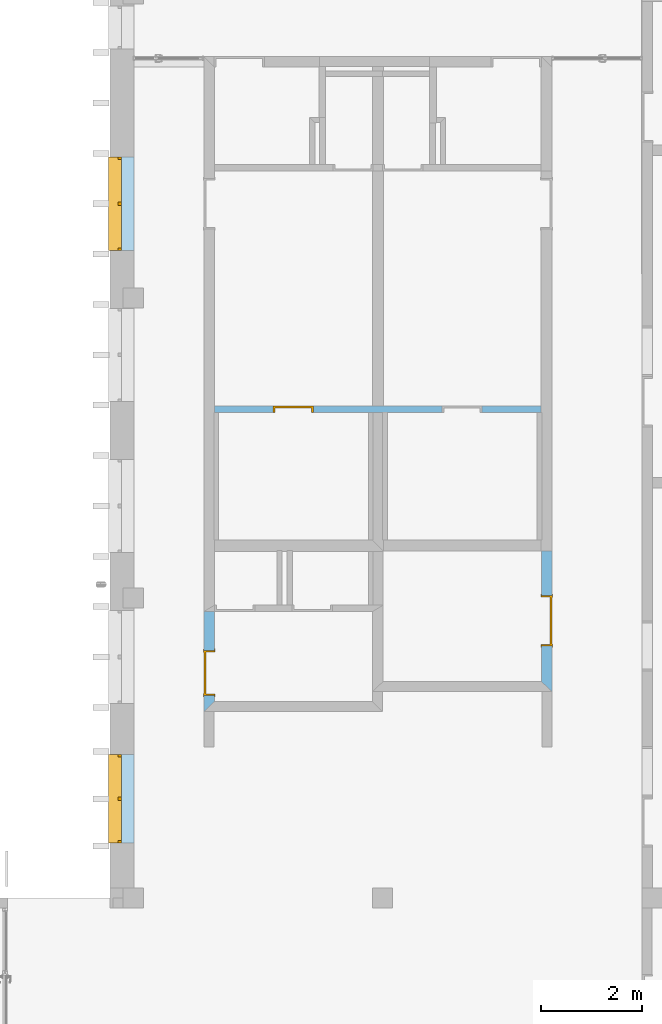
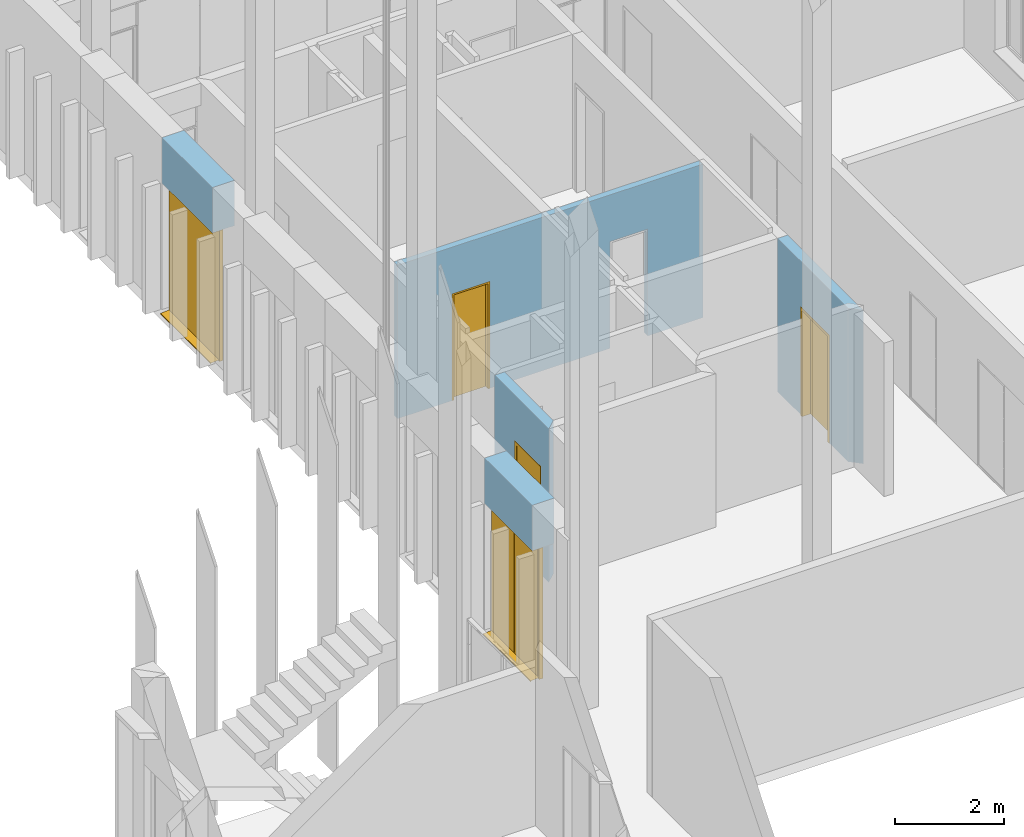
# One storey, part 39 of 89: 3 doors, 2 windows, 6 openings, plus 5 elements that do not belong to this part.
"""IFC2X3 building model written with IfcOpenShell, lengths in millimetres."""

from ifc_helpers import new_model, entity, si_unit, converted_unit, derived_unit, money_unit, direction, frame, origin_with_axes, origin_2d_with_axis, place, context, subcontext, project, spatial, polyline, rectangle, outline, extrude, open_shell, faceted_brep, surface_model, material, layer, layer_set, layer_usage, type_object, element, fill, save


model = new_model("IFC2X3")

# Units and contexts
model_context = context("Model", 3, precision=0.01, world=origin_with_axes(), true_north=direction((0.0, 1.0)))
body_context = subcontext(model_context, "Body", "Model", "MODEL_VIEW")
ifc_project = project(units=[si_unit("LENGTHUNIT", "METRE", prefix="MILLI"), si_unit("AREAUNIT", "SQUARE_METRE"), si_unit("VOLUMEUNIT", "CUBIC_METRE"), converted_unit("PLANEANGLEUNIT", "DEGREE", entity("IfcPlaneAngleMeasure", 0.0174532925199), si_unit("PLANEANGLEUNIT", "RADIAN"), dimensions=[0, 0, 0, 0, 0, 0, 0]), si_unit("SOLIDANGLEUNIT", "STERADIAN"), money_unit("EUR"), converted_unit("TIMEUNIT", "Year", entity("IfcTimeMeasure", 31556926.0), si_unit("TIMEUNIT", "SECOND"), dimensions=[0, 0, 1, 0, 0, 0, 0]), si_unit("MASSUNIT", "GRAM", prefix="KILO"), si_unit("THERMODYNAMICTEMPERATUREUNIT", "DEGREE_CELSIUS"), si_unit("LUMINOUSINTENSITYUNIT", "LUMEN"), si_unit("ENERGYUNIT", "JOULE", prefix="MEGA"), derived_unit("THERMALCONDUCTANCEUNIT", [(si_unit("POWERUNIT", "WATT"), 1), (si_unit("LENGTHUNIT", "METRE"), -1), (si_unit("THERMODYNAMICTEMPERATUREUNIT", "KELVIN"), -1)]), derived_unit("SPECIFICHEATCAPACITYUNIT", [(si_unit("ENERGYUNIT", "JOULE"), 1), (si_unit("MASSUNIT", "GRAM", prefix="KILO"), -1), (si_unit("THERMODYNAMICTEMPERATUREUNIT", "KELVIN"), -1)]), derived_unit("MASSDENSITYUNIT", [(si_unit("MASSUNIT", "GRAM", prefix="KILO"), 1), (si_unit("VOLUMEUNIT", "CUBIC_METRE"), -1)])], contexts=[model_context])

# Site, building, storey
site_placement = place(None, origin_with_axes())
site = spatial("IfcSite", under=ifc_project, at=site_placement, Name="Puškini 31, Narva", CompositionType="ELEMENT")
building_placement = place(site_placement, origin_with_axes())
building = spatial("IfcBuilding", under=site, at=building_placement, Name="Narva Riigigümnaasium", CompositionType="ELEMENT")
storey_placement = place(building_placement, frame((0.0, 0.0, -3300.0), z_axis=(0.0, 0.0, 1.0), x_axis=(1.0, 0.0, 0.0)))
storey = spatial("IfcBuildingStorey", under=building, at=storey_placement, Name="1.korrus -3.3", CompositionType="ELEMENT", Elevation=-3300.0)

# Wall, opening, window
ifc_material_1 = material(Name="fassaadiplaat")
ifc_layer_1 = layer(ifc_material_1, 8.0, ventilated="UNKNOWN")
ifc_material_2 = material(Name="Salto-roovitus")
ifc_layer_2 = layer(ifc_material_2, 50.0, ventilated="UNKNOWN")
ifc_material_3 = material(Name="Salto-PIR soojustus")
ifc_layer_3 = layer(ifc_material_3, 50.0, ventilated="UNKNOWN")
ifc_layer_4 = layer(ifc_material_3, 150.0, ventilated="UNKNOWN")
ifc_material_4 = material(Name="Betoon element")
ifc_layer_5 = layer(ifc_material_4, 200.0, ventilated="UNKNOWN")
ifc_material_5 = material(Name="Salto-siseviimistlus-seinad")
ifc_layer_6 = layer(ifc_material_5, 10.0, ventilated="UNKNOWN")
ifc_layer_set_1 = layer_set([ifc_layer_1, ifc_layer_2, ifc_layer_3, ifc_layer_4, ifc_layer_5, ifc_layer_6], Name="G-VS-01")
ifc_layer_usage_1 = layer_usage(ifc_layer_set_1, "AXIS2", "POSITIVE", -458.0)
wall_type_1 = type_object("IfcWallType", Name="G-VS-01 468", PredefinedType="NOTDEFINED")
wall_1_placement = place(storey_placement, frame((37400.0000002, 238709.212578, 0.0), z_axis=(0.0, 0.0, 1.0), x_axis=(0.0, -1.0, 0.0)))
wall_1 = element("IfcWallStandardCase", 1, at=wall_1_placement, inside=storey, type_object=wall_type_1, material=ifc_layer_usage_1, Name="Välissein", context=body_context, shape_type="SweptSolid", body=[
    extrude(outline(polyline([(0.0, -458.0), (1850.0, -458.0), (1850.0, 10.0), (0.0, 10.0), (0.0, -458.0)])), origin_with_axes(), (0.0, 0.0, 1.0), 3959.99999955),
])
opening_1_placement = place(wall_1_placement, frame((925.0, 0.0, 0.0), z_axis=(0.0, 0.0, 1.0), x_axis=(1.0, 0.0, 0.0)))
opening_1 = element("IfcOpeningElement", 2, at=opening_1_placement, cuts=wall_1, Name="G-A-30", context=body_context, shape_type="SweptSolid", body=[
    extrude(rectangle(XDim=1850.0, YDim=2940.0, at=origin_2d_with_axis()), frame((0.0, -308.0, 1470.0), z_axis=(0.0, 1.0, 0.0), x_axis=(-1.0, 0.0, 0.0)), (0.0, 0.0, 1.0), 786.0),
    extrude(rectangle(XDim=1850.0, YDim=2940.0, at=origin_2d_with_axis()), frame((0.0, -308.0, 1470.0), z_axis=(0.0, -1.0, 0.0), x_axis=(-1.0, 0.0, 0.0)), (0.0, 0.0, 1.0), 618.0),
])
window_style_1 = type_object("IfcWindowStyle", Name="Horizontal Multi-Sash Window 23", ConstructionType="NOTDEFINED", OperationType="DOUBLE_PANEL_VERTICAL", ParameterTakesPrecedence=False, Sizeable=False)
window_1_placement = place(opening_1_placement, frame((-925.0, 0.0, 0.0), z_axis=(0.0, 0.0, 1.0), x_axis=(1.0, 0.0, 0.0)))
window_1 = element("IfcWindow", 3, at=window_1_placement, inside=storey, type_object=window_style_1, Name="G-A-30", ObjectType="WINDOW", OverallHeight=2940.0, OverallWidth=1850.0, context=body_context, shape_type="SurfaceModel", body=[
    surface_model("IfcShellBasedSurfaceModel", [(1850.0, -309.0, 50.0), (0.0, -309.0, 50.0), (0.0, -309.0, 40.0), (1850.0, -309.0, 40.0), (0.0, -488.0, 28.0), (1850.0, -488.0, 28.0), (0.0, -488.0, 8.0), (1850.0, -488.0, 8.0), (0.0, -478.0, 18.0), (1850.0, -478.0, 18.0)], [open_shell([[[0, 1, 2, 3]], [[3, 2, 4, 5]], [[5, 4, 6, 7]], [[7, 6, 8, 9]]])]),
    faceted_brep([(1800.0, -308.0, 2890.0), (1850.0, -308.0, 2890.0), (1850.0, -233.0, 2890.0), (1800.0, -233.0, 2890.0), (1800.0, -308.0, 50.0), (1850.0, -308.0, 50.0), (1850.0, -233.0, 50.0), (1800.0, -233.0, 50.0)], [[[0, 1, 2, 3]], [[0, 4, 5, 1]], [[1, 5, 6, 2]], [[3, 2, 6, 7]], [[4, 0, 3, 7]], [[5, 4, 7, 6]]]),
    faceted_brep([(50.0, -308.0, 50.0), (0.0, -308.0, 50.0), (0.0, -233.0, 50.0), (50.0, -233.0, 50.0), (50.0, -308.0, 2890.0), (0.0, -308.0, 2890.0), (0.0, -233.0, 2890.0), (50.0, -233.0, 2890.0)], [[[0, 1, 2, 3]], [[0, 4, 5, 1]], [[1, 5, 6, 2]], [[3, 2, 6, 7]], [[4, 0, 3, 7]], [[5, 4, 7, 6]]]),
    faceted_brep([(50.0, -308.0, 2890.0), (0.0, -308.0, 2890.0), (0.0, -233.0, 2890.0), (50.0, -233.0, 2890.0), (887.5, -308.0, 2890.0), (962.5, -308.0, 2890.0), (1800.0, -308.0, 2890.0), (1850.0, -308.0, 2890.0), (1850.0, -308.0, 2940.0), (0.0, -308.0, 2940.0), (0.0, -233.0, 2940.0), (1850.0, -233.0, 2940.0), (1850.0, -233.0, 2890.0), (1800.0, -233.0, 2890.0), (962.5, -233.0, 2890.0), (887.5, -233.0, 2890.0)], [[[0, 1, 2, 3]], [[0, 4, 5, 6, 7, 8, 9, 1]], [[1, 9, 10, 2]], [[3, 2, 10, 11, 12, 13, 14, 15]], [[4, 0, 3, 15]], [[5, 4, 15, 14]], [[6, 5, 14, 13]], [[7, 6, 13, 12]], [[8, 7, 12, 11]], [[9, 8, 11, 10]]]),
    faceted_brep([(887.5, -308.0, 50.0), (962.5, -308.0, 50.0), (962.5, -233.0, 50.0), (887.5, -233.0, 50.0), (50.0, -308.0, 50.0), (0.0, -308.0, 50.0), (0.0, -308.0, 0.0), (1850.0, -308.0, 0.0), (1850.0, -308.0, 50.0), (1800.0, -308.0, 50.0), (1800.0, -233.0, 50.0), (1850.0, -233.0, 50.0), (1850.0, -233.0, 0.0), (0.0, -233.0, 0.0), (0.0, -233.0, 50.0), (50.0, -233.0, 50.0)], [[[0, 1, 2, 3]], [[0, 4, 5, 6, 7, 8, 9, 1]], [[1, 9, 10, 2]], [[3, 2, 10, 11, 12, 13, 14, 15]], [[4, 0, 3, 15]], [[5, 4, 15, 14]], [[6, 5, 14, 13]], [[7, 6, 13, 12]], [[8, 7, 12, 11]], [[9, 8, 11, 10]]]),
    faceted_brep([(887.5, -308.0, 50.0), (887.5, -308.0, 2890.0), (887.5, -233.0, 2890.0), (887.5, -233.0, 50.0), (962.5, -308.0, 50.0), (962.5, -308.0, 2890.0), (962.5, -233.0, 2890.0), (962.5, -233.0, 50.0)], [[[0, 1, 2, 3]], [[0, 4, 5, 1]], [[1, 5, 6, 2]], [[3, 2, 6, 7]], [[4, 0, 3, 7]], [[5, 4, 7, 6]]]),
    surface_model("IfcShellBasedSurfaceModel", [(1800.0, -313.0, 50.0), (1800.0, -313.0, 2890.0), (962.5, -313.0, 2890.0), (962.5, -313.0, 50.0)], [open_shell([[[0, 1, 2, 3]]])]),
    surface_model("IfcShellBasedSurfaceModel", [(1800.0, -293.0, 50.0), (962.5, -293.0, 50.0), (962.5, -293.0, 2890.0), (1800.0, -293.0, 2890.0)], [open_shell([[[0, 1, 2, 3]]])]),
    surface_model("IfcShellBasedSurfaceModel", [(887.5, -313.0, 50.0), (887.5, -313.0, 2890.0), (50.0, -313.0, 2890.0), (50.0, -313.0, 50.0)], [open_shell([[[0, 1, 2, 3]]])]),
    surface_model("IfcShellBasedSurfaceModel", [(887.5, -293.0, 50.0), (50.0, -293.0, 50.0), (50.0, -293.0, 2890.0), (887.5, -293.0, 2890.0)], [open_shell([[[0, 1, 2, 3]]])]),
])
fill(opening_1, window_1)

wall_2_placement = place(storey_placement, frame((37400.0000002, 226846.000005, 0.0), z_axis=(0.0, 0.0, 1.0), x_axis=(0.0, -1.0, 0.0)))
wall_2 = element("IfcWallStandardCase", 4, at=wall_2_placement, inside=storey, type_object=wall_type_1, material=ifc_layer_usage_1, Name="Välissein", context=body_context, shape_type="SweptSolid", body=[
    extrude(outline(polyline([(0.0, -458.0), (1750.0, -458.0), (1750.0, 10.0), (0.0, 10.0), (0.0, -458.0)])), origin_with_axes(), (0.0, 0.0, 1.0), 3959.99999955),
])
opening_2_placement = place(wall_2_placement, frame((875.0, 0.0, 0.0), z_axis=(0.0, 0.0, 1.0), x_axis=(1.0, 0.0, 0.0)))
opening_2 = element("IfcOpeningElement", 5, at=opening_2_placement, cuts=wall_2, Name="G-A-41", context=body_context, shape_type="SweptSolid", body=[
    extrude(rectangle(XDim=1750.0, YDim=2940.0, at=origin_2d_with_axis()), frame((0.0, -308.0, 1470.0), z_axis=(0.0, -1.0, 0.0), x_axis=(1.0, 0.0, 0.0)), (0.0, 0.0, -1.0), 786.0),
    extrude(rectangle(XDim=1750.0, YDim=2940.0, at=origin_2d_with_axis()), frame((0.0, -308.0, 1470.0), z_axis=(0.0, 1.0, 0.0), x_axis=(1.0, 0.0, 0.0)), (0.0, 0.0, -1.0), 618.0),
])
window_style_2 = type_object("IfcWindowStyle", Name="Horizontal Multi-Sash Window 23", ConstructionType="NOTDEFINED", OperationType="DOUBLE_PANEL_VERTICAL", ParameterTakesPrecedence=False, Sizeable=False)
window_2_placement = place(opening_2_placement, frame((-875.0, 0.0, 0.0), z_axis=(0.0, 0.0, 1.0), x_axis=(1.0, 0.0, 0.0)))
window_2 = element("IfcWindow", 6, at=window_2_placement, inside=storey, type_object=window_style_2, Name="G-A-41", ObjectType="WINDOW", OverallHeight=2940.0, OverallWidth=1750.0, context=body_context, shape_type="SurfaceModel", body=[
    surface_model("IfcShellBasedSurfaceModel", [(0.0, -309.0, 50.0), (0.0, -309.0, 40.0), (1750.0, -309.0, 40.0), (1750.0, -309.0, 50.0), (0.0, -488.0, 28.0), (1750.0, -488.0, 28.0), (0.0, -488.0, 8.0), (1750.0, -488.0, 8.0), (0.0, -478.0, 18.0), (1750.0, -478.0, 18.0)], [open_shell([[[0, 1, 2, 3]], [[1, 4, 5, 2]], [[4, 6, 7, 5]], [[6, 8, 9, 7]]])]),
    faceted_brep([(50.0, -308.0, 2890.0), (50.0, -233.0, 2890.0), (0.0, -233.0, 2890.0), (0.0, -308.0, 2890.0), (50.0, -308.0, 50.0), (50.0, -233.0, 50.0), (0.0, -233.0, 50.0), (0.0, -308.0, 50.0)], [[[0, 1, 2, 3]], [[4, 5, 1, 0]], [[1, 5, 6, 2]], [[3, 2, 6, 7]], [[0, 3, 7, 4]], [[7, 6, 5, 4]]]),
    faceted_brep([(1700.0, -308.0, 50.0), (1700.0, -233.0, 50.0), (1750.0, -233.0, 50.0), (1750.0, -308.0, 50.0), (1700.0, -308.0, 2890.0), (1700.0, -233.0, 2890.0), (1750.0, -233.0, 2890.0), (1750.0, -308.0, 2890.0)], [[[0, 1, 2, 3]], [[4, 5, 1, 0]], [[1, 5, 6, 2]], [[3, 2, 6, 7]], [[0, 3, 7, 4]], [[7, 6, 5, 4]]]),
    faceted_brep([(1700.0, -308.0, 2890.0), (1700.0, -233.0, 2890.0), (1750.0, -233.0, 2890.0), (1750.0, -308.0, 2890.0), (912.5, -308.0, 2890.0), (912.5, -233.0, 2890.0), (837.5, -233.0, 2890.0), (50.0, -233.0, 2890.0), (0.0, -233.0, 2890.0), (0.0, -233.0, 2940.0), (1750.0, -233.0, 2940.0), (1750.0, -308.0, 2940.0), (0.0, -308.0, 2940.0), (0.0, -308.0, 2890.0), (50.0, -308.0, 2890.0), (837.5, -308.0, 2890.0)], [[[0, 1, 2, 3]], [[4, 5, 1, 0]], [[1, 5, 6, 7, 8, 9, 10, 2]], [[3, 2, 10, 11]], [[0, 3, 11, 12, 13, 14, 15, 4]], [[15, 6, 5, 4]], [[14, 7, 6, 15]], [[13, 8, 7, 14]], [[12, 9, 8, 13]], [[11, 10, 9, 12]]]),
    faceted_brep([(912.5, -308.0, 50.0), (912.5, -233.0, 50.0), (837.5, -233.0, 50.0), (837.5, -308.0, 50.0), (1700.0, -308.0, 50.0), (1700.0, -233.0, 50.0), (1750.0, -233.0, 50.0), (1750.0, -233.0, 0.0), (0.0, -233.0, 0.0), (0.0, -233.0, 50.0), (50.0, -233.0, 50.0), (50.0, -308.0, 50.0), (0.0, -308.0, 50.0), (0.0, -308.0, 0.0), (1750.0, -308.0, 0.0), (1750.0, -308.0, 50.0)], [[[0, 1, 2, 3]], [[4, 5, 1, 0]], [[1, 5, 6, 7, 8, 9, 10, 2]], [[3, 2, 10, 11]], [[0, 3, 11, 12, 13, 14, 15, 4]], [[15, 6, 5, 4]], [[14, 7, 6, 15]], [[13, 8, 7, 14]], [[12, 9, 8, 13]], [[11, 10, 9, 12]]]),
    faceted_brep([(912.5, -308.0, 50.0), (912.5, -233.0, 50.0), (912.5, -233.0, 2890.0), (912.5, -308.0, 2890.0), (837.5, -308.0, 50.0), (837.5, -233.0, 50.0), (837.5, -233.0, 2890.0), (837.5, -308.0, 2890.0)], [[[0, 1, 2, 3]], [[4, 5, 1, 0]], [[1, 5, 6, 2]], [[3, 2, 6, 7]], [[0, 3, 7, 4]], [[7, 6, 5, 4]]]),
    surface_model("IfcShellBasedSurfaceModel", [(50.0, -313.0, 50.0), (837.5, -313.0, 50.0), (837.5, -313.0, 2890.0), (50.0, -313.0, 2890.0)], [open_shell([[[0, 1, 2, 3]]])]),
    surface_model("IfcShellBasedSurfaceModel", [(50.0, -293.0, 50.0), (50.0, -293.0, 2890.0), (837.5, -293.0, 2890.0), (837.5, -293.0, 50.0)], [open_shell([[[0, 1, 2, 3]]])]),
    surface_model("IfcShellBasedSurfaceModel", [(912.5, -313.0, 50.0), (1700.0, -313.0, 50.0), (1700.0, -313.0, 2890.0), (912.5, -313.0, 2890.0)], [open_shell([[[0, 1, 2, 3]]])]),
    surface_model("IfcShellBasedSurfaceModel", [(912.5, -293.0, 50.0), (912.5, -293.0, 2890.0), (1700.0, -293.0, 2890.0), (1700.0, -293.0, 50.0)], [open_shell([[[0, 1, 2, 3]]])]),
])
fill(opening_2, window_2)

# Wall, openings, door
ifc_material_6 = material(Name="siseviimistlus-seinad")
ifc_layer_7 = layer(ifc_material_6, 15.0, ventilated="UNKNOWN")
ifc_material_7 = material(Name="kergbetoonplokk")
ifc_layer_8 = layer(ifc_material_7, 100.0, ventilated="UNKNOWN")
ifc_layer_set_2 = layer_set([ifc_layer_7, ifc_layer_8, ifc_layer_7], Name="G-SS-05-03")
ifc_layer_usage_2 = layer_usage(ifc_layer_set_2, "AXIS2", "NEGATIVE", 15.0)
wall_type_2 = type_object("IfcWallType", Name="G-SS-05-03 130", PredefinedType="NOTDEFINED")
wall_3_placement = place(storey_placement, frame((39000.0000003, 233750.000001, 0.0), z_axis=(0.0, 0.0, 1.0), x_axis=(1.0, 0.0, 0.0)))
wall_3 = element("IfcWallStandardCase", 7, at=wall_3_placement, inside=storey, type_object=wall_type_2, material=ifc_layer_usage_2, Name="Sisesein", context=body_context, shape_type="SweptSolid", body=[
    extrude(outline(polyline([(15.0, -115.0), (6494.99998706, -115.0), (6494.99998741, 15.0), (15.0, 15.0), (15.0, -115.0)])), origin_with_axes(), (0.0, 0.0, 1.0), 3445.0),
])
opening_3_placement = place(wall_3_placement, frame((1575.0, 0.0, 0.0), z_axis=(0.0, 0.0, 1.0), x_axis=(1.0, 0.0, 0.0)))
opening_3 = element("IfcOpeningElement", 8, at=opening_3_placement, cuts=wall_3, Name="G-SU-042", context=body_context, shape_type="SweptSolid", body=[
    extrude(rectangle(XDim=799.999999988, YDim=2400.0, at=origin_2d_with_axis()), frame((0.0, 130.0, 1200.0), z_axis=(0.0, 1.0, 0.0), x_axis=(-1.0, 0.0, 0.0)), (0.0, 0.0, -1.0), 390.0),
])
opening_4_placement = place(wall_3_placement, frame((4924.99999989, 0.0, 0.0), z_axis=(0.0, 0.0, 1.0), x_axis=(1.0, 0.0, 0.0)))
element("IfcOpeningElement", 9, at=opening_4_placement, cuts=wall_3, Name="G-SU-049", context=body_context, shape_type="SweptSolid", body=[
    extrude(rectangle(XDim=799.999999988, YDim=2400.0, at=origin_2d_with_axis()), frame((0.0, -130.0, 1200.0), z_axis=(0.0, 1.0, 0.0), x_axis=(1.0, 0.0, 0.0)), (0.0, 0.0, 1.0), 390.0),
])
door_style_1 = type_object("IfcDoorStyle", Name="Door 23", ConstructionType="NOTDEFINED", OperationType="SINGLE_SWING_LEFT", ParameterTakesPrecedence=False, Sizeable=False)
door_1_placement = place(opening_3_placement, frame((-399.999999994, 0.0, 0.0), z_axis=(0.0, 0.0, 1.0), x_axis=(1.0, 0.0, 0.0)))
door_1 = element("IfcDoor", 10, at=door_1_placement, inside=storey, type_object=door_style_1, Name="G-SU-042", ObjectType="DOOR", OverallHeight=2400.0, OverallWidth=800.0, context=body_context, shape_type="Brep", body=[
    faceted_brep([(759.999999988, -25.0, 0.0), (759.999999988, -115.0, 0.0), (759.999999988, -115.0, 2360.0), (759.999999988, -25.0, 2360.0), (771.999999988, -25.0, 0.0), (771.999999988, 15.0, 0.0), (799.999999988, 15.0, 0.0), (799.999999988, -115.0, 0.0), (799.999999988, -115.0, 2360.0), (771.999999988, -25.0, 2360.0), (799.999999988, 15.0, 2360.0), (771.999999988, 15.0, 2360.0)], [[[0, 1, 2, 3]], [[4, 5, 6, 7, 1, 0]], [[1, 7, 8, 2]], [[9, 3, 2, 8, 10, 11]], [[9, 4, 0, 3]], [[11, 5, 4, 9]], [[11, 10, 6, 5]], [[6, 10, 8, 7]]]),
    faceted_brep([(28.0, -25.0, 2360.0), (28.0, 15.0, 2360.0), (0.0, 15.0, 2360.0), (0.0, -115.0, 2360.0), (40.0, -115.0, 2360.0), (40.0, -25.0, 2360.0), (28.0, -25.0, 0.0), (28.0, 15.0, 0.0), (0.0, 15.0, 0.0), (0.0, -115.0, 0.0), (40.0, -115.0, 0.0), (40.0, -25.0, 0.0)], [[[0, 1, 2, 3, 4, 5]], [[0, 6, 7, 1]], [[7, 8, 2, 1]], [[2, 8, 9, 3]], [[3, 9, 10, 4]], [[5, 4, 10, 11]], [[5, 11, 6, 0]], [[6, 11, 10, 9, 8, 7]]]),
    faceted_brep([(771.999999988, 15.0, 2372.0), (28.0, 15.0, 2372.0), (28.0, 15.0, 2360.0), (0.0, 15.0, 2360.0), (0.0, 15.0, 2400.0), (799.999999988, 15.0, 2400.0), (799.999999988, 15.0, 2360.0), (771.999999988, 15.0, 2360.0), (771.999999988, -25.0, 2372.0), (28.0, -25.0, 2372.0), (28.0, -25.0, 2360.0), (40.0, -25.0, 2360.0), (40.0, -115.0, 2360.0), (0.0, -115.0, 2360.0), (0.0, -115.0, 2400.0), (799.999999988, -115.0, 2400.0), (799.999999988, -115.0, 2360.0), (771.999999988, -25.0, 2360.0), (759.999999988, -115.0, 2360.0), (759.999999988, -25.0, 2360.0)], [[[0, 1, 2, 3, 4, 5, 6, 7]], [[0, 8, 9, 1]], [[1, 9, 10, 2]], [[10, 11, 12, 13, 3, 2]], [[4, 3, 13, 14]], [[5, 4, 14, 15]], [[6, 5, 15, 16]], [[17, 7, 6, 16, 18, 19]], [[7, 17, 8, 0]], [[10, 9, 8, 17, 19, 11]], [[19, 18, 12, 11]], [[12, 18, 16, 15, 14, 13]]]),
    faceted_brep([(28.0, 15.0, 0.0), (771.999999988, 15.0, 0.0), (771.999999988, -25.0, 0.0), (28.0, -25.0, 0.0), (28.0, 15.0, 2372.0), (771.999999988, 15.0, 2372.0), (771.999999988, -25.0, 2372.0), (28.0, -25.0, 2372.0)], [[[0, 1, 2, 3]], [[0, 4, 5, 1]], [[1, 5, 6, 2]], [[3, 2, 6, 7]], [[4, 0, 3, 7]], [[5, 4, 7, 6]]]),
])
fill(opening_3, door_1)

# Wall, opening, door
ifc_layer_9 = layer(ifc_material_6, 10.0, ventilated="UNKNOWN")
ifc_material_8 = material(Name="õõnes betoonplokk")
ifc_layer_10 = layer(ifc_material_8, 190.0, ventilated="UNKNOWN")
ifc_layer_set_3 = layer_set([ifc_layer_9, ifc_layer_10, ifc_layer_9], Name="G-SS-02")
ifc_layer_usage_3 = layer_usage(ifc_layer_set_3, "AXIS2", "NEGATIVE", 10.0)
wall_type_3 = type_object("IfcWallType", Name="G-SS-02 210", PredefinedType="NOTDEFINED")
wall_4_placement = place(storey_placement, frame((38810.0000003, 227700.0, 0.0), z_axis=(0.0, 0.0, 1.0), x_axis=(0.0, 1.0, 0.0)))
wall_4 = element("IfcWallStandardCase", 11, at=wall_4_placement, inside=storey, type_object=wall_type_3, material=ifc_layer_usage_3, Name="Sisesein", context=body_context, shape_type="SweptSolid", body=[
    extrude(outline(polyline([(200.0, -200.0), (1990.00001846, -200.0), (1990.00001846, 10.0), (0.0, 10.0), (200.0, -200.0)])), origin_with_axes(), (0.0, 0.0, 1.0), 3445.0),
])
opening_5_placement = place(wall_4_placement, frame((769.676408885, 0.0, 0.0), z_axis=(0.0, 0.0, 1.0), x_axis=(1.0, 0.0, 0.0)))
opening_5 = element("IfcOpeningElement", 12, at=opening_5_placement, cuts=wall_4, Name="G-SU-043", context=body_context, shape_type="SweptSolid", body=[
    extrude(rectangle(XDim=900.0, YDim=2400.0, at=origin_2d_with_axis()), frame((0.0, -210.0, 1200.0), z_axis=(0.0, 1.0, 0.0), x_axis=(-1.0, 0.0, 0.0)), (0.0, 0.0, 1.0), 630.0),
    extrude(rectangle(XDim=960.0, YDim=2430.0, at=origin_2d_with_axis()), frame((0.0, -200.0, 1215.0), z_axis=(0.0, 1.0, 0.0), x_axis=(-1.0, 0.0, 0.0)), (0.0, 0.0, -1.0), 210.0),
    extrude(rectangle(XDim=956.0, YDim=2428.0, at=origin_2d_with_axis()), frame((0.0, 10.0, 1214.0), z_axis=(0.0, -1.0, 0.0), x_axis=(-1.0, 0.0, 0.0)), (0.0, 0.0, -1.0), 210.0),
])
door_style_2 = type_object("IfcDoorStyle", Name="Door 23", ConstructionType="NOTDEFINED", OperationType="SINGLE_SWING_RIGHT", ParameterTakesPrecedence=False, Sizeable=False)
door_2_placement = place(opening_5_placement, frame((450.0, 0.0, 0.0), z_axis=(0.0, 0.0, 1.0), x_axis=(-1.0, 0.0, 0.0)))
door_2 = element("IfcDoor", 13, at=door_2_placement, inside=storey, type_object=door_style_2, Name="G-SU-043", ObjectType="DOOR", OverallHeight=2400.0, OverallWidth=900.0, context=body_context, shape_type="Brep", body=[
    faceted_brep([(0.0, 30.0, 0.0), (0.0, 200.0, 0.0), (30.0, 200.0, 0.0), (30.0, 30.0, 0.0), (0.0, 30.0, 2400.0), (0.0, 200.0, 2400.0), (30.0, 200.0, 2370.0), (30.0, 30.0, 2370.0)], [[[0, 1, 2, 3]], [[4, 5, 1, 0]], [[1, 5, 6, 2]], [[3, 2, 6, 7]], [[0, 3, 7, 4]], [[7, 6, 5, 4]]]),
    faceted_brep([(900.0, 30.0, 2400.0), (900.0, 200.0, 2400.0), (870.0, 200.0, 2370.0), (870.0, 30.0, 2370.0), (900.0, 30.0, 0.0), (900.0, 200.0, 0.0), (870.0, 200.0, 0.0), (870.0, 30.0, 0.0)], [[[0, 1, 2, 3]], [[4, 5, 1, 0]], [[1, 5, 6, 2]], [[3, 2, 6, 7]], [[0, 3, 7, 4]], [[7, 6, 5, 4]]]),
    faceted_brep([(30.0, 30.0, 2370.0), (30.0, 200.0, 2370.0), (870.0, 200.0, 2370.0), (870.0, 30.0, 2370.0), (0.0, 30.0, 2400.0), (0.0, 200.0, 2400.0), (900.0, 200.0, 2400.0), (900.0, 30.0, 2400.0)], [[[0, 1, 2, 3]], [[4, 5, 1, 0]], [[1, 5, 6, 2]], [[3, 2, 6, 7]], [[0, 3, 7, 4]], [[7, 6, 5, 4]]]),
    faceted_brep([(-30.0, 210.0, 0.0), (30.0, 210.0, 0.0), (30.0, 200.0, 0.0), (-30.0, 200.0, 0.0), (-30.0, 210.0, 2430.0), (30.0, 210.0, 2370.0), (30.0, 200.0, 2370.0), (-30.0, 200.0, 2430.0)], [[[0, 1, 2, 3]], [[0, 4, 5, 1]], [[1, 5, 6, 2]], [[3, 2, 6, 7]], [[4, 0, 3, 7]], [[5, 4, 7, 6]]]),
    faceted_brep([(930.0, 210.0, 2430.0), (870.0, 210.0, 2370.0), (870.0, 200.0, 2370.0), (930.0, 200.0, 2430.0), (930.0, 210.0, 0.0), (870.0, 210.0, 0.0), (870.0, 200.0, 0.0), (930.0, 200.0, 0.0)], [[[0, 1, 2, 3]], [[0, 4, 5, 1]], [[1, 5, 6, 2]], [[3, 2, 6, 7]], [[4, 0, 3, 7]], [[5, 4, 7, 6]]]),
    faceted_brep([(-30.0, 210.0, 2430.0), (30.0, 210.0, 2370.0), (30.0, 200.0, 2370.0), (-30.0, 200.0, 2430.0), (930.0, 210.0, 2430.0), (870.0, 210.0, 2370.0), (870.0, 200.0, 2370.0), (930.0, 200.0, 2430.0)], [[[0, 1, 2, 3]], [[0, 4, 5, 1]], [[1, 5, 6, 2]], [[3, 2, 6, 7]], [[4, 0, 3, 7]], [[5, 4, 7, 6]]]),
    faceted_brep([(-28.0, -20.0, 0.0), (-28.0, -10.0, 0.0), (42.0, -10.0, 0.0), (42.0, -20.0, 0.0), (-28.0, -20.0, 2428.0), (-28.0, -10.0, 2428.0), (42.0, -10.0, 2358.0), (42.0, -20.0, 2358.0)], [[[0, 1, 2, 3]], [[4, 5, 1, 0]], [[1, 5, 6, 2]], [[3, 2, 6, 7]], [[0, 3, 7, 4]], [[7, 6, 5, 4]]]),
    faceted_brep([(928.0, -20.0, 2428.0), (928.0, -10.0, 2428.0), (858.0, -10.0, 2358.0), (858.0, -20.0, 2358.0), (928.0, -20.0, 0.0), (928.0, -10.0, 0.0), (858.0, -10.0, 0.0), (858.0, -20.0, 0.0)], [[[0, 1, 2, 3]], [[4, 5, 1, 0]], [[1, 5, 6, 2]], [[3, 2, 6, 7]], [[0, 3, 7, 4]], [[7, 6, 5, 4]]]),
    faceted_brep([(-28.0, -20.0, 2428.0), (-28.0, -10.0, 2428.0), (42.0, -10.0, 2358.0), (42.0, -20.0, 2358.0), (928.0, -20.0, 2428.0), (928.0, -10.0, 2428.0), (858.0, -10.0, 2358.0), (858.0, -20.0, 2358.0)], [[[0, 1, 2, 3]], [[4, 5, 1, 0]], [[1, 5, 6, 2]], [[3, 2, 6, 7]], [[0, 3, 7, 4]], [[7, 6, 5, 4]]]),
    faceted_brep([(0.0, 30.0, 0.0), (42.0, 30.0, 0.0), (42.0, -10.0, 0.0), (0.0, -10.0, 0.0), (0.0, 30.0, 2358.0), (42.0, 30.0, 2358.0), (42.0, -10.0, 2358.0), (0.0, -10.0, 2358.0)], [[[0, 1, 2, 3]], [[0, 4, 5, 1]], [[1, 5, 6, 2]], [[3, 2, 6, 7]], [[4, 0, 3, 7]], [[5, 4, 7, 6]]]),
    faceted_brep([(900.0, 30.0, 0.0), (900.0, 30.0, 2358.0), (900.0, -10.0, 2358.0), (900.0, -10.0, 0.0), (858.0, 30.0, 0.0), (858.0, 30.0, 2358.0), (858.0, -10.0, 2358.0), (858.0, -10.0, 0.0)], [[[0, 1, 2, 3]], [[0, 4, 5, 1]], [[1, 5, 6, 2]], [[3, 2, 6, 7]], [[4, 0, 3, 7]], [[5, 4, 7, 6]]]),
    faceted_brep([(0.0, 30.0, 2400.0), (0.0, 30.0, 2358.0), (0.0, -10.0, 2358.0), (0.0, -10.0, 2400.0), (900.0, 30.0, 2400.0), (900.0, 30.0, 2358.0), (858.0, 30.0, 2358.0), (42.0, 30.0, 2358.0), (42.0, -10.0, 2358.0), (858.0, -10.0, 2358.0), (900.0, -10.0, 2358.0), (900.0, -10.0, 2400.0)], [[[0, 1, 2, 3]], [[0, 4, 5, 6, 7, 1]], [[1, 7, 8, 2]], [[3, 2, 8, 9, 10, 11]], [[4, 0, 3, 11]], [[5, 4, 11, 10]], [[6, 5, 10, 9]], [[7, 6, 9, 8]]]),
    faceted_brep([(858.0, 30.0, 0.0), (858.0, -10.0, 0.0), (42.0, -10.0, 0.0), (42.0, 30.0, 0.0), (858.0, 30.0, 2358.0), (858.0, -10.0, 2358.0), (42.0, -10.0, 2358.0), (42.0, 30.0, 2358.0)], [[[0, 1, 2, 3]], [[4, 5, 1, 0]], [[1, 5, 6, 2]], [[3, 2, 6, 7]], [[0, 3, 7, 4]], [[7, 6, 5, 4]]]),
])
fill(opening_5, door_2)

ifc_layer_usage_4 = layer_usage(ifc_layer_set_3, "AXIS2", "POSITIVE", -10.0)
wall_5_placement = place(storey_placement, frame((45700.0000001, 228100.0, 0.0), z_axis=(0.0, 0.0, 1.0), x_axis=(0.0, 1.0, 0.0)))
wall_5 = element("IfcWallStandardCase", 14, at=wall_5_placement, inside=storey, type_object=wall_type_3, material=ifc_layer_usage_4, Name="Sisesein", context=body_context, shape_type="SweptSolid", body=[
    extrude(outline(polyline([(0.0, -10.0), (2790.00000003, -10.0), (2790.00000003, 200.0), (200.0, 200.0), (0.0, -10.0)])), origin_with_axes(), (0.0, 0.0, 1.0), 3445.0),
])
opening_6_placement = place(wall_5_placement, frame((1405.23674815, 0.0, 0.0), z_axis=(0.0, 0.0, 1.0), x_axis=(1.0, 0.0, 0.0)))
opening_6 = element("IfcOpeningElement", 15, at=opening_6_placement, cuts=wall_5, Name="G-SU-050", context=body_context, shape_type="SweptSolid", body=[
    extrude(rectangle(XDim=1000.00000009, YDim=2400.0, at=origin_2d_with_axis()), frame((0.0, 210.0, 1200.0), z_axis=(0.0, 1.0, 0.0), x_axis=(-1.0, 0.0, 0.0)), (0.0, 0.0, -1.0), 630.0),
    extrude(rectangle(XDim=1060.00000009, YDim=2430.0, at=origin_2d_with_axis()), frame((0.0, 200.0, 1215.0), z_axis=(0.0, 1.0, 0.0), x_axis=(-1.0, 0.0, 0.0)), (0.0, 0.0, 1.0), 210.0),
    extrude(rectangle(XDim=1056.00000009, YDim=2428.0, at=origin_2d_with_axis()), frame((0.0, -10.0, 1214.0), z_axis=(0.0, -1.0, 0.0), x_axis=(-1.0, 0.0, 0.0)), (0.0, 0.0, 1.0), 210.0),
])
door_style_3 = type_object("IfcDoorStyle", Name="Door 23", ConstructionType="NOTDEFINED", OperationType="SINGLE_SWING_LEFT", ParameterTakesPrecedence=False, Sizeable=False)
door_3_placement = place(opening_6_placement, frame((-500.000000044, 0.0, 0.0), z_axis=(0.0, 0.0, 1.0), x_axis=(1.0, 0.0, 0.0)))
door_3 = element("IfcDoor", 16, at=door_3_placement, inside=storey, type_object=door_style_3, Name="G-SU-050", ObjectType="DOOR", OverallHeight=2400.0, OverallWidth=1000.0, context=body_context, shape_type="Brep", body=[
    faceted_brep([(1000.00000009, 30.0, 0.0), (970.000000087, 30.0, 0.0), (970.000000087, 200.0, 0.0), (1000.00000009, 200.0, 0.0), (1000.00000009, 30.0, 2400.0), (970.000000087, 30.0, 2370.0), (970.000000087, 200.0, 2370.0), (1000.00000009, 200.0, 2400.0)], [[[0, 1, 2, 3]], [[0, 4, 5, 1]], [[1, 5, 6, 2]], [[3, 2, 6, 7]], [[4, 0, 3, 7]], [[5, 4, 7, 6]]]),
    faceted_brep([(0.0, 30.0, 2400.0), (30.0, 30.0, 2370.0), (30.0, 200.0, 2370.0), (0.0, 200.0, 2400.0), (0.0, 30.0, 0.0), (30.0, 30.0, 0.0), (30.0, 200.0, 0.0), (0.0, 200.0, 0.0)], [[[0, 1, 2, 3]], [[0, 4, 5, 1]], [[1, 5, 6, 2]], [[3, 2, 6, 7]], [[4, 0, 3, 7]], [[5, 4, 7, 6]]]),
    faceted_brep([(970.000000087, 30.0, 2370.0), (30.0, 30.0, 2370.0), (30.0, 200.0, 2370.0), (970.000000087, 200.0, 2370.0), (1000.00000009, 30.0, 2400.0), (0.0, 30.0, 2400.0), (0.0, 200.0, 2400.0), (1000.00000009, 200.0, 2400.0)], [[[0, 1, 2, 3]], [[0, 4, 5, 1]], [[1, 5, 6, 2]], [[3, 2, 6, 7]], [[4, 0, 3, 7]], [[5, 4, 7, 6]]]),
    faceted_brep([(1030.00000009, 210.0, 0.0), (1030.00000009, 200.0, 0.0), (970.000000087, 200.0, 0.0), (970.000000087, 210.0, 0.0), (1030.00000009, 210.0, 2430.0), (1030.00000009, 200.0, 2430.0), (970.000000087, 200.0, 2370.0), (970.000000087, 210.0, 2370.0)], [[[0, 1, 2, 3]], [[4, 5, 1, 0]], [[1, 5, 6, 2]], [[3, 2, 6, 7]], [[0, 3, 7, 4]], [[7, 6, 5, 4]]]),
    faceted_brep([(-30.0, 210.0, 2430.0), (-30.0, 200.0, 2430.0), (30.0, 200.0, 2370.0), (30.0, 210.0, 2370.0), (-30.0, 210.0, 0.0), (-30.0, 200.0, 0.0), (30.0, 200.0, 0.0), (30.0, 210.0, 0.0)], [[[0, 1, 2, 3]], [[4, 5, 1, 0]], [[1, 5, 6, 2]], [[3, 2, 6, 7]], [[0, 3, 7, 4]], [[7, 6, 5, 4]]]),
    faceted_brep([(1030.00000009, 210.0, 2430.0), (1030.00000009, 200.0, 2430.0), (970.000000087, 200.0, 2370.0), (970.000000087, 210.0, 2370.0), (-30.0, 210.0, 2430.0), (-30.0, 200.0, 2430.0), (30.0, 200.0, 2370.0), (30.0, 210.0, 2370.0)], [[[0, 1, 2, 3]], [[4, 5, 1, 0]], [[1, 5, 6, 2]], [[3, 2, 6, 7]], [[0, 3, 7, 4]], [[7, 6, 5, 4]]]),
    faceted_brep([(1028.00000009, -20.0, 0.0), (958.000000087, -20.0, 0.0), (958.000000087, -10.0, 0.0), (1028.00000009, -10.0, 0.0), (1028.00000009, -20.0, 2428.0), (958.000000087, -20.0, 2358.0), (958.000000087, -10.0, 2358.0), (1028.00000009, -10.0, 2428.0)], [[[0, 1, 2, 3]], [[0, 4, 5, 1]], [[1, 5, 6, 2]], [[3, 2, 6, 7]], [[4, 0, 3, 7]], [[5, 4, 7, 6]]]),
    faceted_brep([(-28.0, -20.0, 2428.0), (42.0, -20.0, 2358.0), (42.0, -10.0, 2358.0), (-28.0, -10.0, 2428.0), (-28.0, -20.0, 0.0), (42.0, -20.0, 0.0), (42.0, -10.0, 0.0), (-28.0, -10.0, 0.0)], [[[0, 1, 2, 3]], [[0, 4, 5, 1]], [[1, 5, 6, 2]], [[3, 2, 6, 7]], [[4, 0, 3, 7]], [[5, 4, 7, 6]]]),
    faceted_brep([(1028.00000009, -20.0, 2428.0), (958.000000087, -20.0, 2358.0), (958.000000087, -10.0, 2358.0), (1028.00000009, -10.0, 2428.0), (-28.0, -20.0, 2428.0), (42.0, -20.0, 2358.0), (42.0, -10.0, 2358.0), (-28.0, -10.0, 2428.0)], [[[0, 1, 2, 3]], [[0, 4, 5, 1]], [[1, 5, 6, 2]], [[3, 2, 6, 7]], [[4, 0, 3, 7]], [[5, 4, 7, 6]]]),
    faceted_brep([(1000.00000009, 30.0, 0.0), (1000.00000009, -10.0, 0.0), (958.000000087, -10.0, 0.0), (958.000000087, 30.0, 0.0), (1000.00000009, 30.0, 2358.0), (1000.00000009, -10.0, 2358.0), (958.000000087, -10.0, 2358.0), (958.000000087, 30.0, 2358.0)], [[[0, 1, 2, 3]], [[4, 5, 1, 0]], [[1, 5, 6, 2]], [[3, 2, 6, 7]], [[0, 3, 7, 4]], [[7, 6, 5, 4]]]),
    faceted_brep([(0.0, 30.0, 0.0), (0.0, -10.0, 0.0), (0.0, -10.0, 2358.0), (0.0, 30.0, 2358.0), (42.0, 30.0, 0.0), (42.0, -10.0, 0.0), (42.0, -10.0, 2358.0), (42.0, 30.0, 2358.0)], [[[0, 1, 2, 3]], [[4, 5, 1, 0]], [[1, 5, 6, 2]], [[3, 2, 6, 7]], [[0, 3, 7, 4]], [[7, 6, 5, 4]]]),
    faceted_brep([(1000.00000009, 30.0, 2400.0), (1000.00000009, -10.0, 2400.0), (1000.00000009, -10.0, 2358.0), (1000.00000009, 30.0, 2358.0), (0.0, 30.0, 2400.0), (0.0, -10.0, 2400.0), (0.0, -10.0, 2358.0), (42.0, -10.0, 2358.0), (958.000000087, -10.0, 2358.0), (958.000000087, 30.0, 2358.0), (42.0, 30.0, 2358.0), (0.0, 30.0, 2358.0)], [[[0, 1, 2, 3]], [[4, 5, 1, 0]], [[1, 5, 6, 7, 8, 2]], [[3, 2, 8, 9]], [[0, 3, 9, 10, 11, 4]], [[11, 6, 5, 4]], [[10, 7, 6, 11]], [[9, 8, 7, 10]]]),
    faceted_brep([(42.0, 30.0, 0.0), (958.000000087, 30.0, 0.0), (958.000000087, -10.0, 0.0), (42.0, -10.0, 0.0), (42.0, 30.0, 2358.0), (958.000000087, 30.0, 2358.0), (958.000000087, -10.0, 2358.0), (42.0, -10.0, 2358.0)], [[[0, 1, 2, 3]], [[0, 4, 5, 1]], [[1, 5, 6, 2]], [[3, 2, 6, 7]], [[4, 0, 3, 7]], [[5, 4, 7, 6]]]),
])
fill(opening_6, door_3)

save(model, "model.ifc")
